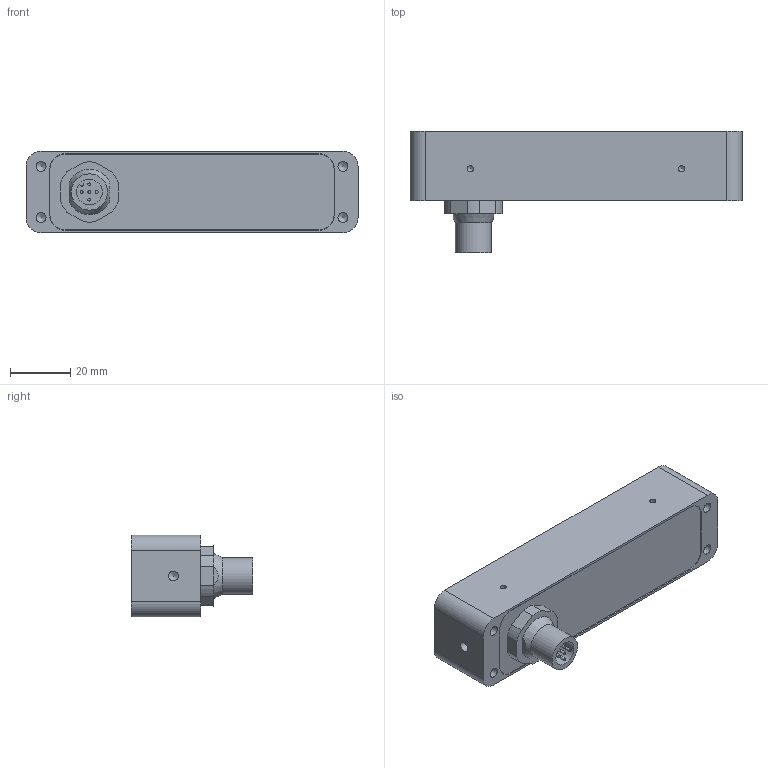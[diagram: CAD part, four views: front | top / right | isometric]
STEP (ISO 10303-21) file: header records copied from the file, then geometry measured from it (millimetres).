
FILE_DESCRIPTION (( 'STEP AP214' ), '1' );
FILE_NAME ('03558.00 Basisbaugruppe MBL-0210.STEP', '2023-05-12T07:30:23', ( '' ), ( '' ), 'SwSTEP 2.0', 'SolidWorks 2022', '' );
FILE_SCHEMA (( 'AUTOMOTIVE_DESIGN' ));
Length unit declared in the file: millimetre
Products named in the file (5): 03560.00 Deckscheibe MBL-0210 (klar, mit Blende); 03558.00 Basisbaugruppe MBL-0210; 03561.00 Steckerblech MBL-02xx (M12 Stecker); 00436.00 Einbaustecker M12x1 5pol; 03559.00 Gehäuse MBL-0210
Assembly tree (4 placements, depth 2):
  03558.00 Basisbaugruppe MBL-0210
    03559.00 Gehäuse MBL-0210
    03560.00 Deckscheibe MBL-0210 (klar, mit Blende)
    03561.00 Steckerblech MBL-02xx (M12 Stecker)
    00436.00 Einbaustecker M12x1 5pol
Bounding box: 110 x 40.3 x 27 mm (x, y, z)
Volume: 39400.7 mm3; surface area: 32742.6 mm2
Topology: 5 solids, 5 shells, 262 faces, 690 edges, 451 vertices
Faces by surface type: plane 153, cylinder 94, cone 11, sphere 4
Full cylindrical faces by diameter (mm): 1 x5, 2.05 x4, 3.3 x6, 12 x1
Entity records: 8453 total; most frequent: CARTESIAN_POINT 1399, DIRECTION 1380, ORIENTED_EDGE 1300, EDGE_CURVE 650, AXIS2_PLACEMENT_3D 465, LINE 450, VECTOR 450, VERTEX_POINT 440
